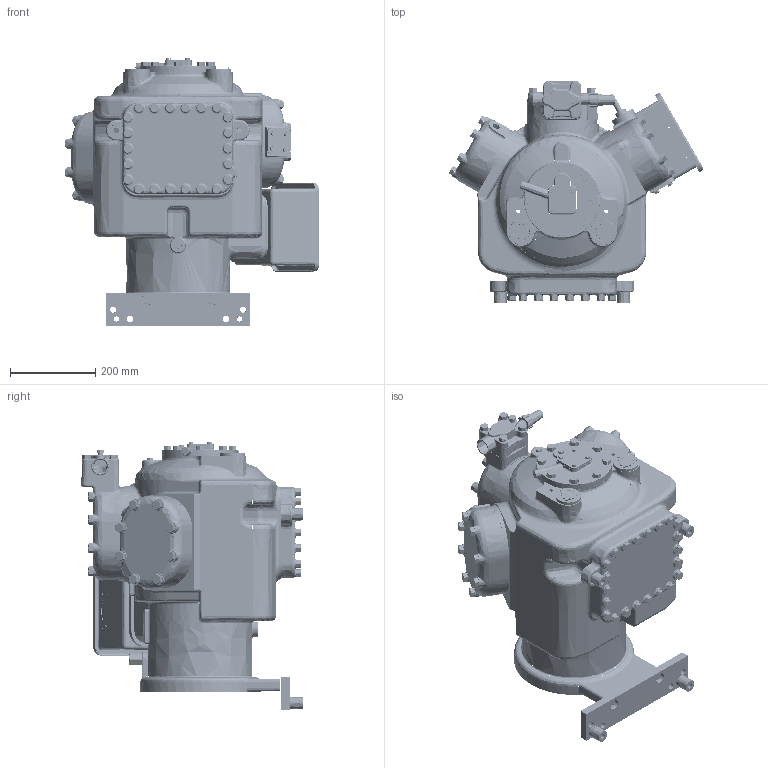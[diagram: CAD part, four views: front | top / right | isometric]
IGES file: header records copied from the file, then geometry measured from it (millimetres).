
Start section:  PTC IGES file: 06E61EHSL_SV_wire.igs
Global section: file name: 06E61EHSL_SV_wire.igs; native system: Pro/ENGINEER by Parametric Technology Corporation; preprocessor: 2003161; author: manikandanm; organization: Unknown; date: 040123.211921; units: inch
Bounding box: 597.44 x 519.34 x 628.24 mm (x, y, z)
Surface area: 1901251.8 mm2 (no closed solid volume)
Topology: 0 solids, 0 shells, 2687 faces, 13203 edges, 13202 vertices
Faces by surface type: bspline 2687
